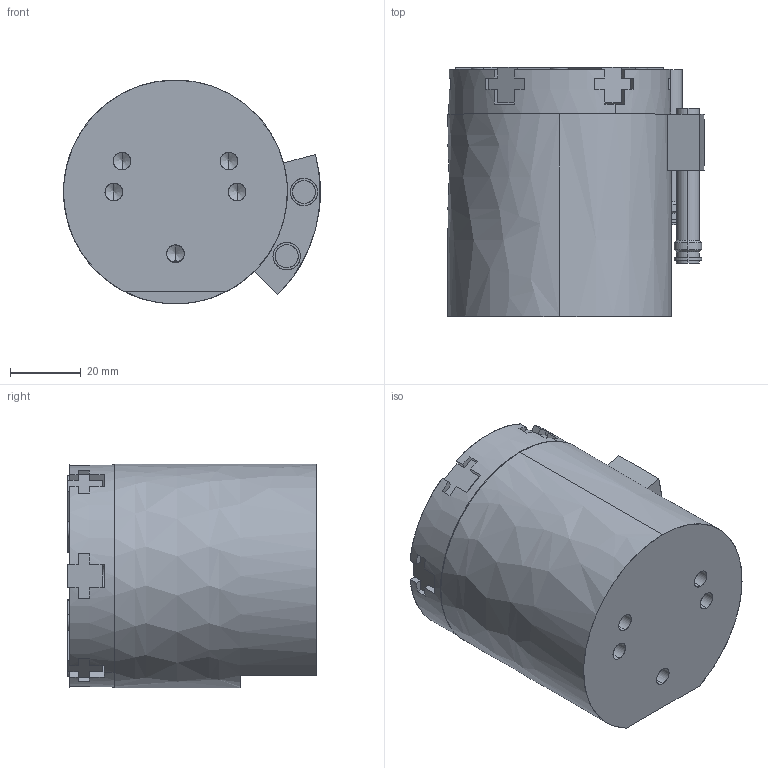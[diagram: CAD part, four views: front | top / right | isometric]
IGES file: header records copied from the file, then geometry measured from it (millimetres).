
Start section: SolidWorks IGES file using analytic representation for surfaces
Global section: file name: E:\Customer Files\AGI Automation\AGP-6-OR\AGP-6-OR CLOSED in MM.IGS; native system: SolidWorks 2013; preprocessor: SolidWorks 2013; author: jmkuhnes; date: 150601.092527; units: millimetre
Bounding box: 72.87 x 70.61 x 63.5 mm (x, y, z)
Surface area: 49848.6 mm2 (no closed solid volume)
Topology: 0 solids, 0 shells, 609 faces, 7179 edges, 7103 vertices
Faces by surface type: revolution 368, bspline 241
